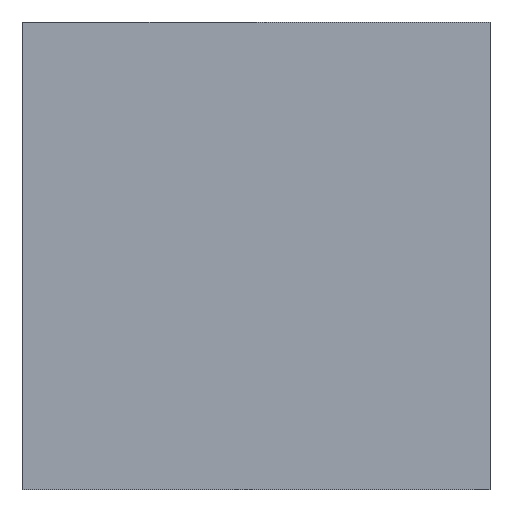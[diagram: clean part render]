
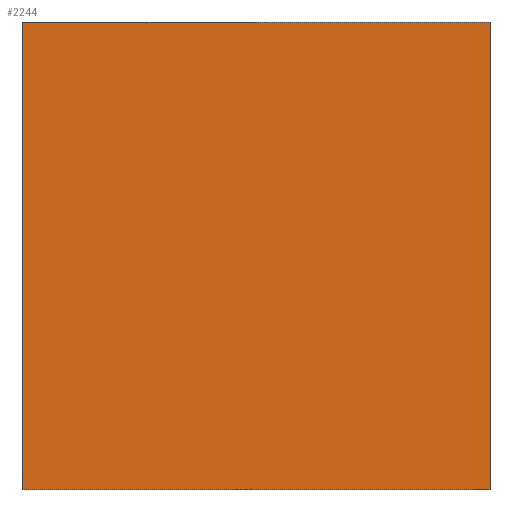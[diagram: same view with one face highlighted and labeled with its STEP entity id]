
A CAD part, front view. The second image highlights one B-rep face of the part: STEP entity #2244.
In plain terms, the highlighted planar face has unit normal (0, -1, 0).
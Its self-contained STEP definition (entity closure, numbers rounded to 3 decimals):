
#21 = CARTESIAN_POINT ( 'NONE',  ( -150., -700., 150. ) ) ;
#347 = CARTESIAN_POINT ( 'NONE',  ( 150., -700., -150. ) ) ;
#379 = DIRECTION ( 'NONE',  ( 0., 1., 0. ) ) ;
#471 = CARTESIAN_POINT ( 'NONE',  ( -150., -700., -150. ) ) ;
#525 = ORIENTED_EDGE ( 'NONE', *, *, #1389, .F. ) ;
#549 = VERTEX_POINT ( 'NONE', #3809 ) ;
#581 = VECTOR ( 'NONE', #3578, 1000. ) ;
#583 = VERTEX_POINT ( 'NONE', #3222 ) ;
#657 = DIRECTION ( 'NONE',  ( 0., 0., 1. ) ) ;
#772 = AXIS2_PLACEMENT_3D ( 'NONE', #2628, #379, #657 ) ;
#783 = ORIENTED_EDGE ( 'NONE', *, *, #3393, .F. ) ;
#814 = LINE ( 'NONE', #471, #3874 ) ;
#1014 = CARTESIAN_POINT ( 'NONE',  ( -150., -700., -150. ) ) ;
#1156 = DIRECTION ( 'NONE',  ( -1., 0., 0. ) ) ;
#1389 = EDGE_CURVE ( 'NONE', #3467, #2300, #814, .T. ) ;
#1394 = ORIENTED_EDGE ( 'NONE', *, *, #1828, .F. ) ;
#1418 = DIRECTION ( 'NONE',  ( 0., 0., -1. ) ) ;
#1450 = VECTOR ( 'NONE', #2115, 1000. ) ;
#1799 = CARTESIAN_POINT ( 'NONE',  ( 150., -700., -150. ) ) ;
#1828 = EDGE_CURVE ( 'NONE', #2300, #583, #4045, .T. ) ;
#1832 = ORIENTED_EDGE ( 'NONE', *, *, #2360, .F. ) ;
#1982 = FACE_OUTER_BOUND ( 'NONE', #2022, .T. ) ;
#2022 = EDGE_LOOP ( 'NONE', ( #1394, #525, #1832, #783 ) ) ;
#2115 = DIRECTION ( 'NONE',  ( 0., 0., 1. ) ) ;
#2244 = ADVANCED_FACE ( 'NONE', ( #1982 ), #3607, .F. ) ;
#2300 = VERTEX_POINT ( 'NONE', #1014 ) ;
#2321 = VECTOR ( 'NONE', #1418, 1000. ) ;
#2360 = EDGE_CURVE ( 'NONE', #549, #3467, #3031, .T. ) ;
#2628 = CARTESIAN_POINT ( 'NONE',  ( 0., -700., 0. ) ) ;
#2746 = CARTESIAN_POINT ( 'NONE',  ( -150., -700., -150. ) ) ;
#3031 = LINE ( 'NONE', #1799, #2321 ) ;
#3196 = LINE ( 'NONE', #21, #581 ) ;
#3222 = CARTESIAN_POINT ( 'NONE',  ( -150., -700., 150. ) ) ;
#3393 = EDGE_CURVE ( 'NONE', #583, #549, #3196, .T. ) ;
#3467 = VERTEX_POINT ( 'NONE', #347 ) ;
#3578 = DIRECTION ( 'NONE',  ( 1., 0., 0. ) ) ;
#3607 = PLANE ( 'NONE',  #772 ) ;
#3809 = CARTESIAN_POINT ( 'NONE',  ( 150., -700., 150. ) ) ;
#3874 = VECTOR ( 'NONE', #1156, 1000. ) ;
#4045 = LINE ( 'NONE', #2746, #1450 ) ;
